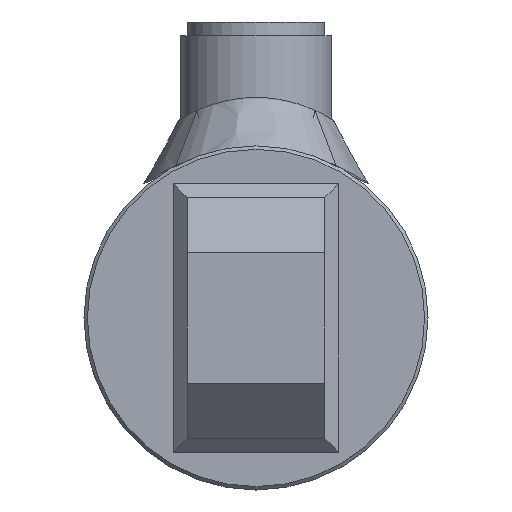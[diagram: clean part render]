
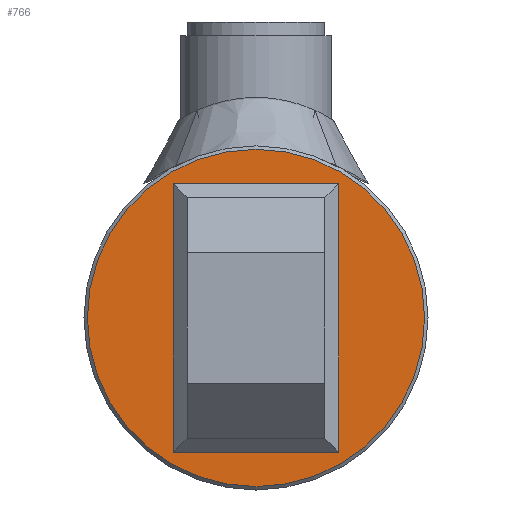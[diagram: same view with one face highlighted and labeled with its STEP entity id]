
A CAD part, left-side view. The second image highlights one B-rep face of the part: STEP entity #766.
In plain terms, the highlighted planar face has unit normal (-1, 0, 0).
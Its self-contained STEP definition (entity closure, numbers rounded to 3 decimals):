
#766 = ADVANCED_FACE( '', ( #1415 ), #1416, .T. );
#1415 = FACE_OUTER_BOUND( '', #2303, .T. );
#1416 = PLANE( '', #2304 );
#2303 = EDGE_LOOP( '', ( #5504 ) );
#2304 = AXIS2_PLACEMENT_3D( '', #5505, #5506, #5507 );
#5504 = ORIENTED_EDGE( '', *, *, #6788, .T. );
#5505 = CARTESIAN_POINT( '', ( -10., 0., 0. ) );
#5506 = DIRECTION( '', ( -1., 0., 0. ) );
#5507 = DIRECTION( '', ( 0., -1., 0. ) );
#6788 = EDGE_CURVE( '', #7589, #7589, #7590, .T. );
#7589 = VERTEX_POINT( '', #8404 );
#7590 = CIRCLE( '', #8405, 24.5 );
#8404 = CARTESIAN_POINT( '', ( -10., -24.5, 0. ) );
#8405 = AXIS2_PLACEMENT_3D( '', #10131, #10132, #10133 );
#10131 = CARTESIAN_POINT( '', ( -10., 0., 0. ) );
#10132 = DIRECTION( '', ( -1., 0., 0. ) );
#10133 = DIRECTION( '', ( 0., -1., 0. ) );
